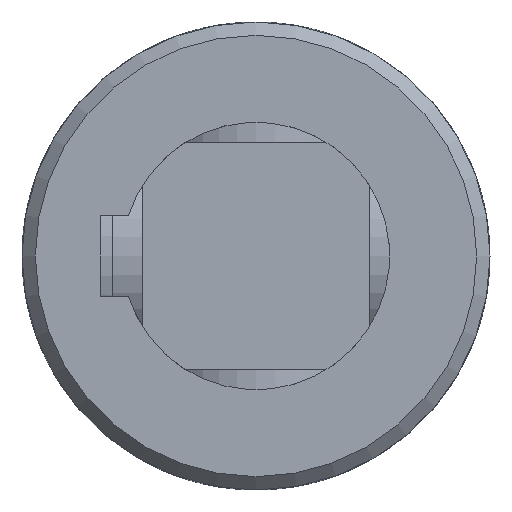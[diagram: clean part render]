
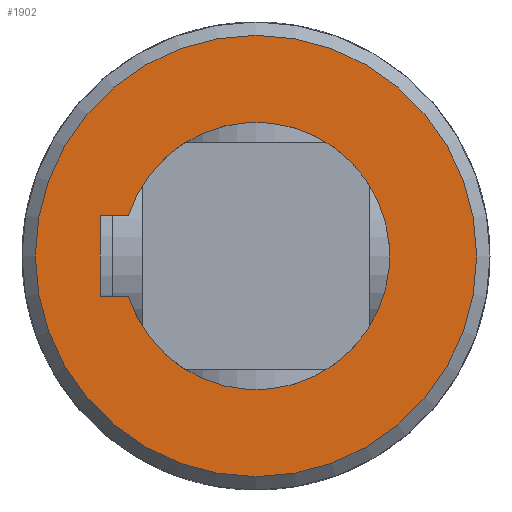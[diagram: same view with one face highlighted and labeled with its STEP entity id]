
A CAD part, front view. The second image highlights one B-rep face of the part: STEP entity #1902.
In plain terms, the highlighted planar face has unit normal (0, -1, 0).
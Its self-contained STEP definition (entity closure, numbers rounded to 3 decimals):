
#84=LINE('',#3544,#151);
#87=LINE('',#3557,#154);
#89=LINE('',#3563,#156);
#151=VECTOR('',#2432,4.221);
#154=VECTOR('',#2437,12.);
#156=VECTOR('',#2443,4.221);
#345=FACE_BOUND('',#621,.T.);
#468=FACE_OUTER_BOUND('',#620,.T.);
#620=EDGE_LOOP('',(#1553));
#621=EDGE_LOOP('',(#1554,#1555,#1556,#1557));
#738=CIRCLE('',#2074,20.);
#740=CIRCLE('',#2077,33.);
#882=VERTEX_POINT('',#3541);
#883=VERTEX_POINT('',#3543);
#885=VERTEX_POINT('',#3555);
#887=VERTEX_POINT('',#3561);
#893=VERTEX_POINT('',#3633);
#1114=EDGE_CURVE('',#883,#882,#84,.T.);
#1118=EDGE_CURVE('',#882,#885,#87,.T.);
#1121=EDGE_CURVE('',#885,#887,#89,.T.);
#1127=EDGE_CURVE('',#887,#883,#738,.T.);
#1129=EDGE_CURVE('',#893,#893,#740,.T.);
#1553=ORIENTED_EDGE('',*,*,#1129,.F.);
#1554=ORIENTED_EDGE('',*,*,#1114,.T.);
#1555=ORIENTED_EDGE('',*,*,#1118,.T.);
#1556=ORIENTED_EDGE('',*,*,#1121,.T.);
#1557=ORIENTED_EDGE('',*,*,#1127,.T.);
#1807=PLANE('',#2079);
#1902=ADVANCED_FACE('',(#468,#345),#1807,.F.);
#2074=AXIS2_PLACEMENT_3D('',#3629,#2452,#2453);
#2077=AXIS2_PLACEMENT_3D('',#3634,#2458,#2459);
#2079=AXIS2_PLACEMENT_3D('',#3866,#2466,#2467);
#2432=DIRECTION('',(0.,0.,-1.));
#2437=DIRECTION('',(-1.,0.,0.));
#2443=DIRECTION('',(0.,0.,1.));
#2452=DIRECTION('center_axis',(0.,1.,0.));
#2453=DIRECTION('ref_axis',(-0.3,0.,0.954));
#2458=DIRECTION('center_axis',(0.,1.,0.));
#2459=DIRECTION('ref_axis',(1.,0.,0.));
#2466=DIRECTION('center_axis',(0.,1.,0.));
#2467=DIRECTION('ref_axis',(0.,0.,1.));
#3541=CARTESIAN_POINT('',(6.,-100.,-23.3));
#3543=CARTESIAN_POINT('',(6.,-100.,-19.079));
#3544=CARTESIAN_POINT('',(6.,-100.,-9.539));
#3555=CARTESIAN_POINT('',(-6.,-100.,-23.3));
#3557=CARTESIAN_POINT('',(3.,-100.,-23.3));
#3561=CARTESIAN_POINT('',(-6.,-100.,-19.079));
#3563=CARTESIAN_POINT('',(-6.,-100.,-11.65));
#3629=CARTESIAN_POINT('Origin',(0.,-100.,0.));
#3633=CARTESIAN_POINT('',(-33.,-100.,0.));
#3634=CARTESIAN_POINT('Origin',(0.,-100.,0.));
#3866=CARTESIAN_POINT('Origin',(0.,-100.,0.));
